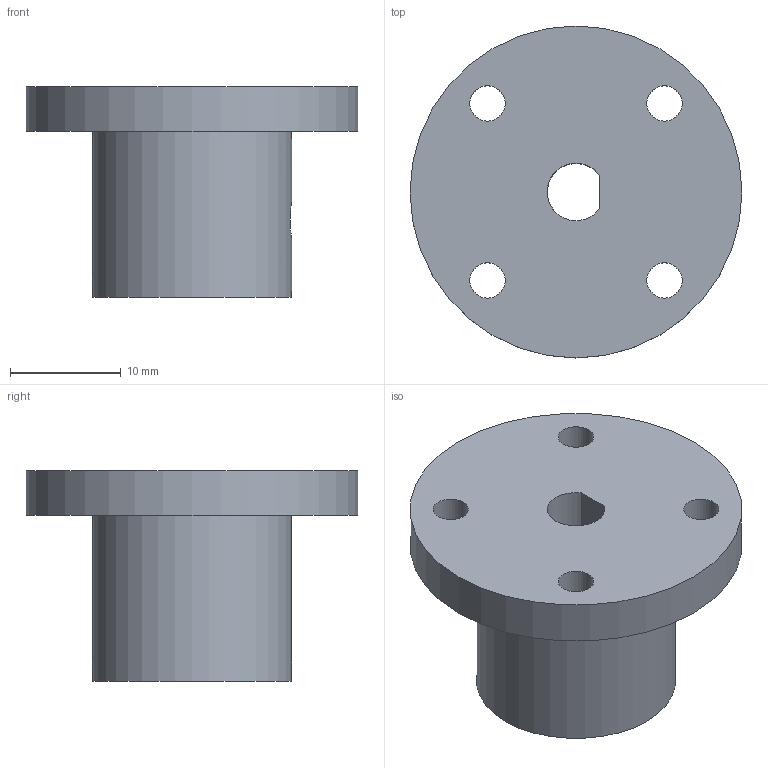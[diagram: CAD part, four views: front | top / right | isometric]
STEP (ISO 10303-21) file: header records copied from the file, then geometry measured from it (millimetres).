
FILE_DESCRIPTION(('Open CASCADE Model'),'2;1');
FILE_NAME('Open CASCADE Shape Model','2026-09-04T19:26:43',('Author'),( 'Open CASCADE'),'Open CASCADE STEP processor 7.9','Open CASCADE 7.9' ,'Unknown');
FILE_SCHEMA(('AUTOMOTIVE_DESIGN { 1 0 10303 214 1 1 1 1 }'));
Length unit declared in the file: millimetre
Products named in the file (1): COMPOUND
Bounding box: 30 x 30 x 19 mm (x, y, z)
Volume: 6000.6 mm3; surface area: 3142.5 mm2
Topology: 1 solids, 1 shells, 24 faces, 56 edges, 37 vertices
Faces by surface type: plane 13, cylinder 11
Full cylindrical faces by diameter (mm): 3.2 x6, 18 x1, 30 x1
Entity records: 1917 total; most frequent: CARTESIAN_POINT 744, DIRECTION 205, ORIENTED_EDGE 112, PCURVE 112, DEFINITIONAL_REPRESENTATION 112, LINE 92, VECTOR 92, EDGE_CURVE 56
